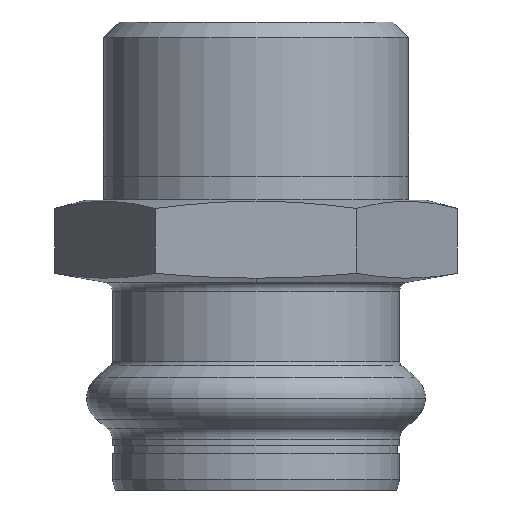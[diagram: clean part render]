
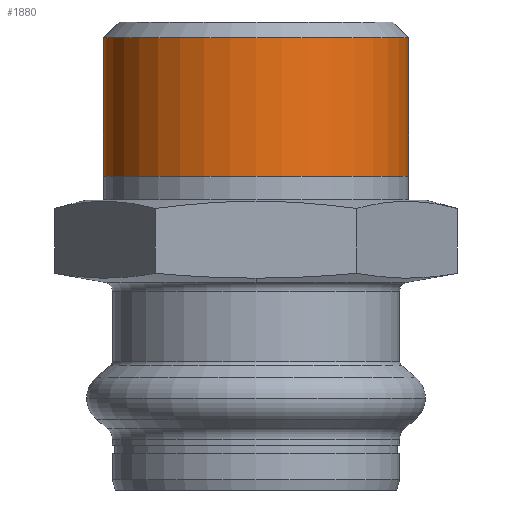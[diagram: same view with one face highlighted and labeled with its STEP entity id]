
A CAD part, front view. The second image highlights one B-rep face of the part: STEP entity #1880.
In plain terms, the highlighted cylindrical face has radius 16.625 mm (diameter 33.249 mm), a partial arc.
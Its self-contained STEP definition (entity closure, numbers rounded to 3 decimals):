
#460=CARTESIAN_POINT('',(52.428,38.033,27.1));
#470=VERTEX_POINT('',#460);
#500=CARTESIAN_POINT('',(35.804,38.033,27.1));
#510=DIRECTION('',(0.,0.,1.));
#520=DIRECTION('',(1.,0.,0.));
#530=AXIS2_PLACEMENT_3D('',#500,#510,#520);
#540=CIRCLE('',#530,16.625);
#550=CARTESIAN_POINT('',(19.179,38.033,27.1));
#560=VERTEX_POINT('',#550);
#570=EDGE_CURVE('',#560,#470,#540,.T.);
#1130=CARTESIAN_POINT('',(35.804,38.033,9.4));
#1140=DIRECTION('',(0.,0.,1.));
#1150=DIRECTION('',(1.,0.,0.));
#1160=AXIS2_PLACEMENT_3D('',#1130,#1140,#1150);
#1170=CYLINDRICAL_SURFACE('',#1160,16.625);
#1490=CARTESIAN_POINT('',(19.179,38.033,12.));
#1500=VERTEX_POINT('',#1490);
#1530=CARTESIAN_POINT('',(35.804,38.033,12.));
#1540=DIRECTION('',(0.,0.,1.));
#1550=DIRECTION('',(1.,0.,0.));
#1560=AXIS2_PLACEMENT_3D('',#1530,#1540,#1550);
#1570=CIRCLE('',#1560,16.625);
#1580=CARTESIAN_POINT('',(52.428,38.033,12.));
#1590=VERTEX_POINT('',#1580);
#1600=EDGE_CURVE('',#1500,#1590,#1570,.T.);
#1720=CARTESIAN_POINT('',(19.179,38.033,9.4));
#1730=DIRECTION('',(0.,0.,1.));
#1740=VECTOR('',#1730,1.);
#1750=LINE('',#1720,#1740);
#1760=EDGE_CURVE('',#1500,#560,#1750,.T.);
#1770=ORIENTED_EDGE('',*,*,#1760,.F.);
#1780=ORIENTED_EDGE('',*,*,#570,.F.);
#1790=CARTESIAN_POINT('',(52.428,38.033,9.4));
#1800=DIRECTION('',(0.,0.,1.));
#1810=VECTOR('',#1800,1.);
#1820=LINE('',#1790,#1810);
#1830=EDGE_CURVE('',#1590,#470,#1820,.T.);
#1840=ORIENTED_EDGE('',*,*,#1830,.T.);
#1850=ORIENTED_EDGE('',*,*,#1600,.T.);
#1860=EDGE_LOOP('',(#1850,#1840,#1780,#1770));
#1870=FACE_OUTER_BOUND('',#1860,.T.);
#1880=ADVANCED_FACE('1.309016-11_613553',(#1870),#1170,.T.);
